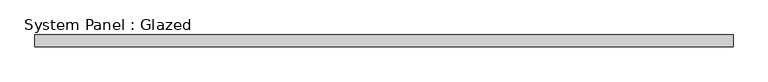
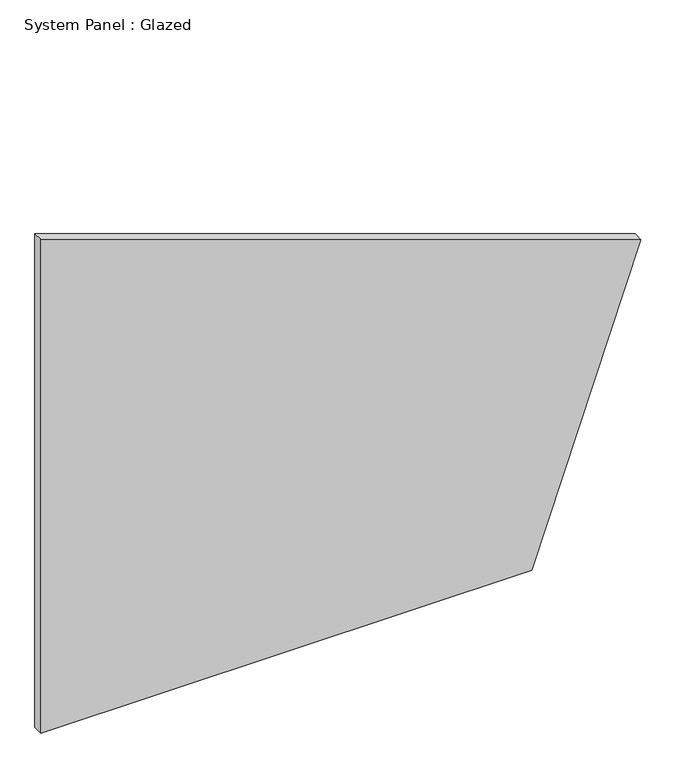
"""IFC4 building model written with IfcOpenShell, lengths in millimetres: plate geometry, System Panel : Glazed."""

import ifcopenshell
import ifcopenshell.guid

model = None  # the IFC model being written
_history = None  # IfcOwnerHistory: only IFC2X3 demands one
_inside = {}  # id of a spatial element -> (the spatial element, [elements in it])
_under = {}  # id of a project, library or spatial element -> (it, [spatial elements below it])
_declared = {}  # id of a project -> (the project, [libraries it declares])
_typed = {}  # id of a type object -> (the type object, [elements of that type])
_made_of = {}  # id of a material, layer set ... -> (it, [elements and type objects made of it])


def new_model(schema):
    """Start an empty IFC model of exactly this schema.

    Asked for "IFC4X3", IfcOpenShell would pick the latest addendum, in which some entities
    have other attributes; the version numbers below select the first issue.
    IFC2X3 requires an IfcOwnerHistory on every rooted entity: one is made here for all.
    """
    global model, _history
    if schema == "IFC4X3":
        model = ifcopenshell.file(schema_version=(4, 3, 0, 0))
    else:
        model = ifcopenshell.file(schema=schema)
    _inside.clear()
    _under.clear()
    _declared.clear()
    _typed.clear()
    _made_of.clear()
    _history = None
    if model.schema == "IFC2X3":
        org = make("IfcOrganization", Name="unknown")
        user = make(
            "IfcPersonAndOrganization",
            ThePerson=make("IfcPerson", FamilyName="unknown"),
            TheOrganization=org,
        )
        app = make(
            "IfcApplication",
            ApplicationDeveloper=org,
            Version="unknown",
            ApplicationFullName="unknown",
            ApplicationIdentifier="unknown",
        )
        _history = make(
            "IfcOwnerHistory",
            OwningUser=user,
            OwningApplication=app,
            ChangeAction="ADDED",
            CreationDate=0,
        )
    return model


def make(cls, **values):
    """One entity of the class cls with the attributes given. An attribute that is None is left unset."""
    return model.create_entity(
        cls, **{name: value for name, value in values.items() if value is not None}
    )


def rooted(cls, **values):
    """An entity with a GlobalId (a new one), such as an element, a storey or a relation."""
    return make(cls, GlobalId=ifcopenshell.guid.new(), OwnerHistory=_history, **values)


def si_unit(unit_type, name, prefix=None):
    """IfcSIUnit, for example si_unit("LENGTHUNIT", "METRE", prefix="MILLI")."""
    return make("IfcSIUnit", UnitType=unit_type, Prefix=prefix, Name=name)


def assignment(units):
    """IfcUnitAssignment: the units of a project."""
    return None if units is None else make("IfcUnitAssignment", Units=units)


def point(xyz):
    """IfcCartesianPoint."""
    return None if xyz is None else make("IfcCartesianPoint", Coordinates=xyz)


def direction(xyz):
    """IfcDirection."""
    return None if xyz is None else make("IfcDirection", DirectionRatios=xyz)


def frame(location, z_axis=None, x_axis=None):
    """IfcAxis2Placement3D, a coordinate frame: its origin and axes. An axis left out is left unset."""
    return make(
        "IfcAxis2Placement3D",
        Location=point(location),
        Axis=direction(z_axis),
        RefDirection=direction(x_axis),
    )


def origin():
    """The frame at (0, 0, 0) with its axes left unset."""
    return frame((0.0, 0.0, 0.0))


def place(relative_to, where):
    """IfcLocalPlacement: puts the frame where relative to a parent placement (None: the world)."""
    return make(
        "IfcLocalPlacement", PlacementRelTo=relative_to, RelativePlacement=where
    )


def context(
    kind, dimensions, precision=None, world=None, true_north=None, identifier=None
):
    """IfcGeometricRepresentationContext, for example the 3D "Model" context."""
    return make(
        "IfcGeometricRepresentationContext",
        ContextIdentifier=identifier,
        ContextType=kind,
        CoordinateSpaceDimension=dimensions,
        Precision=precision,
        WorldCoordinateSystem=world,
        TrueNorth=true_north,
    )


def project(units=None, contexts=None):
    """IfcProject with its units and contexts."""
    return rooted(
        "IfcProject",
        Name="project",
        RepresentationContexts=contexts,
        UnitsInContext=assignment(units),
    )


def spatial(cls, under=None, at=None, **own):
    """A site, building, storey or space (cls), placed at a placement, below another one or the project."""
    s = rooted(cls, ObjectPlacement=at, **own)
    if under is not None:
        _under.setdefault(under.id(), (under, []))[1].append(s)
    return s


def polyline(points):
    """IfcPolyline through the points."""
    return make("IfcPolyline", Points=[point(p) for p in points])


def outline(outer, holes=None, kind="AREA"):
    """IfcArbitraryClosedProfileDef: a profile drawn as a closed curve; with holes, ...WithVoids."""
    if holes is None:
        return make("IfcArbitraryClosedProfileDef", ProfileType=kind, OuterCurve=outer)
    return make(
        "IfcArbitraryProfileDefWithVoids",
        ProfileType=kind,
        OuterCurve=outer,
        InnerCurves=holes,
    )


def extrude(swept, where, along, depth):
    """IfcExtrudedAreaSolid: the profile swept, set in the frame where, extruded along a direction by depth."""
    return make(
        "IfcExtrudedAreaSolid",
        SweptArea=swept,
        Position=where,
        ExtrudedDirection=direction(along),
        Depth=depth,
    )


def shape(context_of_items, identifier, shape_type, items):
    """IfcShapeRepresentation: the items that make up one representation, for example the "Body"."""
    return make(
        "IfcShapeRepresentation",
        ContextOfItems=context_of_items,
        RepresentationIdentifier=identifier,
        RepresentationType=shape_type,
        Items=items,
    )


def source(mapping_origin, context_of_items, identifier, shape_type, items):
    """IfcRepresentationMap: a shape defined once, which mapped items show again and again."""
    return make(
        "IfcRepresentationMap",
        MappingOrigin=mapping_origin,
        MappedRepresentation=shape(context_of_items, identifier, shape_type, items),
    )


def transform(
    local_origin,
    x_axis=None,
    y_axis=None,
    z_axis=None,
    scale=None,
    scale2=None,
    scale3=None,
    uniform=True,
):
    """IfcCartesianTransformationOperator3D, or its non-uniform kind. x_axis, y_axis, z_axis: its Axis1, 2, 3."""
    if uniform:
        return make(
            "IfcCartesianTransformationOperator3D",
            Axis1=direction(x_axis),
            Axis2=direction(y_axis),
            LocalOrigin=point(local_origin),
            Scale=scale,
            Axis3=direction(z_axis),
        )
    return make(
        "IfcCartesianTransformationOperator3DnonUniform",
        Axis1=direction(x_axis),
        Axis2=direction(y_axis),
        LocalOrigin=point(local_origin),
        Scale=scale,
        Axis3=direction(z_axis),
        Scale2=scale2,
        Scale3=scale3,
    )


def mapped(mapping_source, mapping_target):
    """IfcMappedItem: shows the shape of a source again, moved by a transform."""
    return make(
        "IfcMappedItem", MappingSource=mapping_source, MappingTarget=mapping_target
    )


def made_of(thing, what):
    """Note that an element or type object is made of a material, layer set ...; save() writes the relation."""
    if what is not None:
        _made_of.setdefault(what.id(), (what, []))[1].append(thing)
    return thing


def element(
    cls,
    number,
    at=None,
    inside=None,
    cuts=None,
    type_object=None,
    material=None,
    context=None,
    identifier="Body",
    shape_type=None,
    held_by="IfcProductDefinitionShape",
    body=None,
    shapes=None,
    **own,
):
    """One element of the class cls, such as IfcWall. Its Tag is "e" and its number.

    at: its placement. inside: the storey or other place that contains it. cuts: it is an
    opening in that element (IfcRelVoidsElement). A single representation is given by context,
    identifier, shape_type and body (its items); several are given by shapes. held_by: the class
    of the entity that holds the representations. save() writes the other relations.
    """
    e = rooted(cls, Tag="e%d" % number, ObjectPlacement=at, **own)
    if body is not None:
        shapes = [shape(context, identifier, shape_type, body)]
    if shapes is not None:
        e.Representation = make(held_by, Representations=shapes)
    if inside is not None:
        _inside.setdefault(inside.id(), (inside, []))[1].append(e)
    if cuts is not None:
        rooted(
            "IfcRelVoidsElement", RelatingBuildingElement=cuts, RelatedOpeningElement=e
        )
    if type_object is not None:
        _typed.setdefault(type_object.id(), (type_object, []))[1].append(e)
    return made_of(e, material)


def aggregate(whole, parts):
    """IfcRelAggregates: a whole, such as a stair, and the parts it consists of."""
    return rooted("IfcRelAggregates", RelatingObject=whole, RelatedObjects=parts)


def save(model, path):
    """Write the relations noted so far, then the file.

    IfcRelAggregates (storeys below a building ...), IfcRelContainedInSpatialStructure (elements
    in a storey), IfcRelDefinesByType, IfcRelAssociatesMaterial and IfcRelDeclares: one each for
    every whole, place, type object, material and project.
    """
    for whole, parts in _under.values():
        aggregate(whole, parts)
    for where, things in _inside.values():
        rooted(
            "IfcRelContainedInSpatialStructure",
            RelatedElements=things,
            RelatingStructure=where,
        )
    for kind, things in _typed.values():
        rooted("IfcRelDefinesByType", RelatedObjects=things, RelatingType=kind)
    for what, things in _made_of.values():
        rooted("IfcRelAssociatesMaterial", RelatedObjects=things, RelatingMaterial=what)
    for by, libraries in _declared.values():
        rooted("IfcRelDeclares", RelatingContext=by, RelatedDefinitions=libraries)
    model.write(path)


def system_panel_glazed_f0325da4(model_context):
    return source(origin(), model_context, "Body", "SweptSolid", [
        extrude(outline(polyline([(0.0, -750.9397841), (0.0, 477.7309318), (779.7997312, 750.9397841), (1305.9948256, -750.9397841), (0.0, -750.9397841)])), frame((0.0, 24.5, 0.0), z_axis=(0.0, 1.0, 0.0), x_axis=(0.0, 0.0, 1.0)), (0.0, 0.0, 1.0), 25.0),
    ])


if __name__ == "__main__":
    model = new_model("IFC4")
    model_context = context("Model", 3, world=origin())
    ifc_project = project(units=[si_unit("LENGTHUNIT", "METRE", prefix="MILLI")], contexts=[model_context])
    site = spatial("IfcSite", under=ifc_project)
    building = spatial("IfcBuilding", under=site)
    placement = place(None, origin())
    system_panel_glazed_shape = system_panel_glazed_f0325da4(model_context)
    element("IfcPlate", 1, ObjectType="System Panel : Glazed", at=placement, inside=building, context=model_context, shape_type="MappedRepresentation", body=[
        mapped(system_panel_glazed_shape, transform((0.0, 0.0, 0.0), x_axis=(1.0, 0.0, 0.0), y_axis=(0.0, 1.0, 0.0), z_axis=(0.0, 0.0, 1.0))),
    ])
    save(model, "model.ifc")
